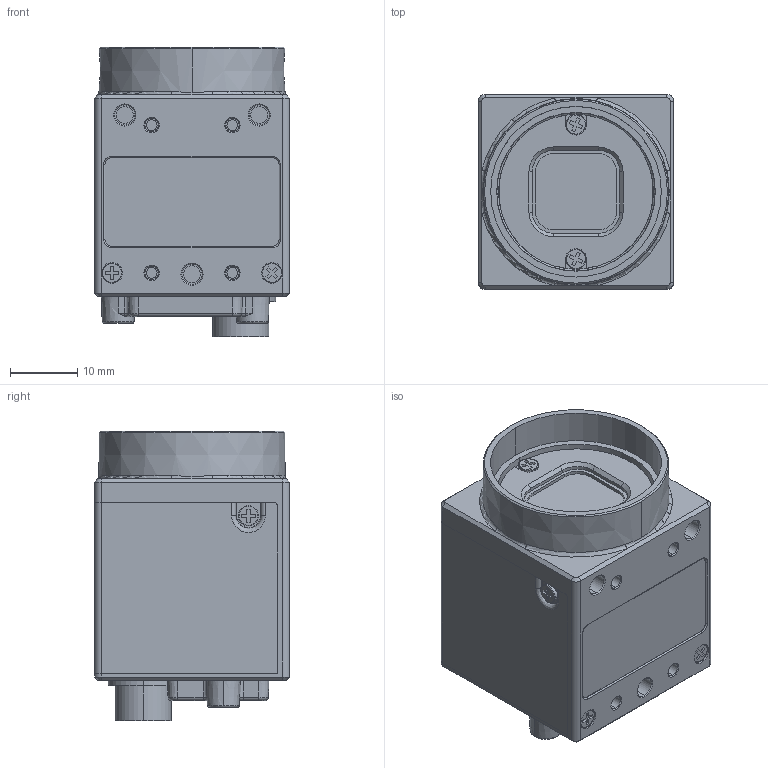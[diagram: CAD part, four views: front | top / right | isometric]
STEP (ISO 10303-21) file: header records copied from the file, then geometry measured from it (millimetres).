
FILE_DESCRIPTION (( 'STEP AP203' ), '1' );
FILE_NAME ('FL2-016-R0.STEP', '2016-01-07T16:48:10', ( '' ), ( '' ), 'SwSTEP 2.0', 'SolidWorks 2015', '' );
FILE_SCHEMA (( 'CONFIG_CONTROL_DESIGN' ));
Length unit declared in the file: millimetre
Products named in the file (1): FL2-016-R0
Bounding box: 29 x 29 x 43.08 mm (x, y, z)
Volume: 26396.7 mm3; surface area: 7551.8 mm2
Topology: 1 solids, 1 shells, 525 faces, 1281 edges, 801 vertices
Faces by surface type: plane 237, cylinder 148, bspline 58, cone 58, torus 24
Entity records: 17653 total; most frequent: CARTESIAN_POINT 5509, ORIENTED_EDGE 2546, DIRECTION 2475, EDGE_CURVE 1273, AXIS2_PLACEMENT_3D 880, VERTEX_POINT 803, LINE 715, VECTOR 715
